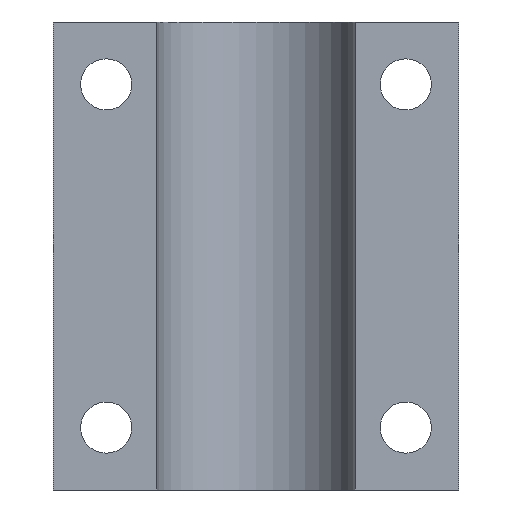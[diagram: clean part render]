
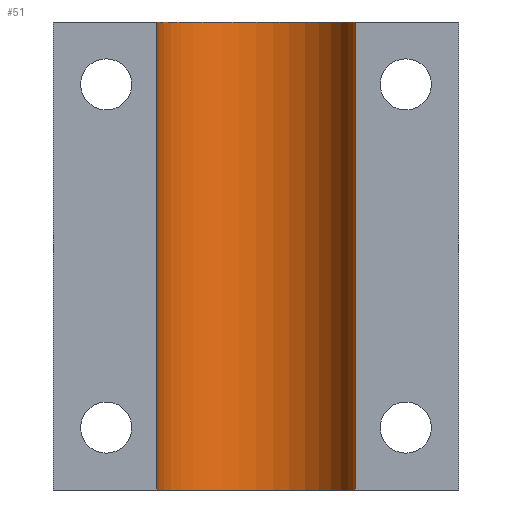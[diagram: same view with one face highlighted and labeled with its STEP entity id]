
A CAD part, left-side view. The second image highlights one B-rep face of the part: STEP entity #51.
In plain terms, the highlighted cylindrical face has radius 15.875 mm (diameter 31.75 mm), a partial arc.
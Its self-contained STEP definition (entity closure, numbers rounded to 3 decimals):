
#27=CYLINDRICAL_SURFACE('',#554,15.875);
#51=ADVANCED_FACE('',(#79),#27,.F.);
#79=FACE_OUTER_BOUND('',#127,.F.);
#127=EDGE_LOOP('',(#200,#201,#202,#203));
#200=ORIENTED_EDGE('',*,*,#396,.F.);
#201=ORIENTED_EDGE('',*,*,#395,.F.);
#202=ORIENTED_EDGE('',*,*,#393,.F.);
#203=ORIENTED_EDGE('',*,*,#394,.T.);
#305=LINE('',#808,#337);
#306=LINE('',#809,#338);
#337=VECTOR('',#630,75.);
#338=VECTOR('',#631,75.);
#393=EDGE_CURVE('',#486,#482,#457,.T.);
#394=EDGE_CURVE('',#486,#481,#305,.T.);
#395=EDGE_CURVE('',#482,#484,#306,.T.);
#396=EDGE_CURVE('',#484,#481,#458,.T.);
#457=CIRCLE('',#537,15.875);
#458=CIRCLE('',#538,15.875);
#481=VERTEX_POINT('',#751);
#482=VERTEX_POINT('',#752);
#484=VERTEX_POINT('',#754);
#486=VERTEX_POINT('',#756);
#537=AXIS2_PLACEMENT_3D('',#807,#628,#629);
#538=AXIS2_PLACEMENT_3D('',#810,#632,#633);
#554=AXIS2_PLACEMENT_3D('',#854,#692,#693);
#628=DIRECTION('',(0.,0.,-1.));
#629=DIRECTION('',(0.031,1.,0.));
#630=DIRECTION('',(0.,0.,1.));
#631=DIRECTION('',(0.,0.,1.));
#632=DIRECTION('',(0.,0.,1.));
#633=DIRECTION('',(0.031,-1.,0.));
#692=DIRECTION('',(0.,0.,-1.));
#693=DIRECTION('',(0.,1.,0.));
#751=CARTESIAN_POINT('',(1123.375,435.119,566.874));
#752=CARTESIAN_POINT('',(1123.375,403.385,491.874));
#754=CARTESIAN_POINT('',(1123.375,403.385,566.874));
#756=CARTESIAN_POINT('',(1123.375,435.119,491.874));
#807=CARTESIAN_POINT('',(1122.875,419.252,491.874));
#808=CARTESIAN_POINT('',(1123.375,435.119,491.874));
#809=CARTESIAN_POINT('',(1123.375,403.385,491.874));
#810=CARTESIAN_POINT('',(1122.875,419.252,566.874));
#854=CARTESIAN_POINT('',(1122.875,419.252,486.874));
